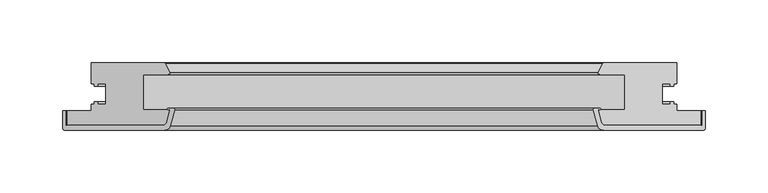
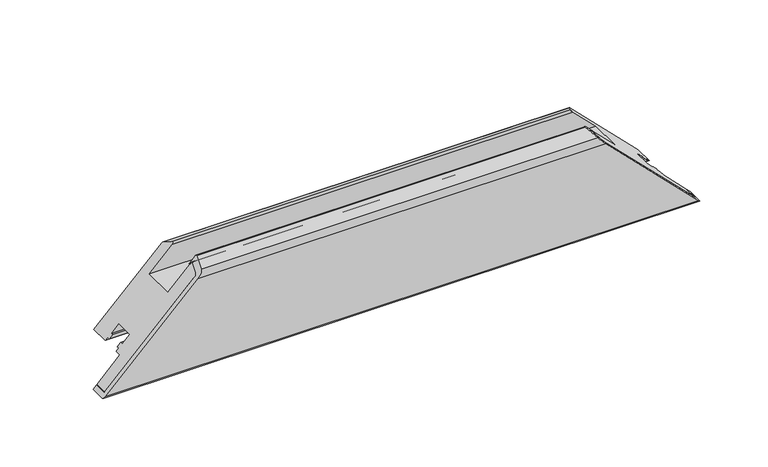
"""IFC4 building model written with IfcOpenShell, lengths in millimetres: proxy geometry, Weiku - Montante - Folha 02.2.01.018 : Weiku - Montante - Folha 02.2.01.018."""

import ifcopenshell
import ifcopenshell.guid

model = None  # the IFC model being written
_history = None  # IfcOwnerHistory: only IFC2X3 demands one
_inside = {}  # id of a spatial element -> (the spatial element, [elements in it])
_under = {}  # id of a project, library or spatial element -> (it, [spatial elements below it])
_declared = {}  # id of a project -> (the project, [libraries it declares])
_typed = {}  # id of a type object -> (the type object, [elements of that type])
_made_of = {}  # id of a material, layer set ... -> (it, [elements and type objects made of it])


def new_model(schema):
    """Start an empty IFC model of exactly this schema.

    Asked for "IFC4X3", IfcOpenShell would pick the latest addendum, in which some entities
    have other attributes; the version numbers below select the first issue.
    IFC2X3 requires an IfcOwnerHistory on every rooted entity: one is made here for all.
    """
    global model, _history
    if schema == "IFC4X3":
        model = ifcopenshell.file(schema_version=(4, 3, 0, 0))
    else:
        model = ifcopenshell.file(schema=schema)
    _inside.clear()
    _under.clear()
    _declared.clear()
    _typed.clear()
    _made_of.clear()
    _history = None
    if model.schema == "IFC2X3":
        org = make("IfcOrganization", Name="unknown")
        user = make(
            "IfcPersonAndOrganization",
            ThePerson=make("IfcPerson", FamilyName="unknown"),
            TheOrganization=org,
        )
        app = make(
            "IfcApplication",
            ApplicationDeveloper=org,
            Version="unknown",
            ApplicationFullName="unknown",
            ApplicationIdentifier="unknown",
        )
        _history = make(
            "IfcOwnerHistory",
            OwningUser=user,
            OwningApplication=app,
            ChangeAction="ADDED",
            CreationDate=0,
        )
    return model


def make(cls, **values):
    """One entity of the class cls with the attributes given. An attribute that is None is left unset."""
    return model.create_entity(
        cls, **{name: value for name, value in values.items() if value is not None}
    )


def rooted(cls, **values):
    """An entity with a GlobalId (a new one), such as an element, a storey or a relation."""
    return make(cls, GlobalId=ifcopenshell.guid.new(), OwnerHistory=_history, **values)


def si_unit(unit_type, name, prefix=None):
    """IfcSIUnit, for example si_unit("LENGTHUNIT", "METRE", prefix="MILLI")."""
    return make("IfcSIUnit", UnitType=unit_type, Prefix=prefix, Name=name)


def assignment(units):
    """IfcUnitAssignment: the units of a project."""
    return None if units is None else make("IfcUnitAssignment", Units=units)


def point(xyz):
    """IfcCartesianPoint."""
    return None if xyz is None else make("IfcCartesianPoint", Coordinates=xyz)


def direction(xyz):
    """IfcDirection."""
    return None if xyz is None else make("IfcDirection", DirectionRatios=xyz)


def frame(location, z_axis=None, x_axis=None):
    """IfcAxis2Placement3D, a coordinate frame: its origin and axes. An axis left out is left unset."""
    return make(
        "IfcAxis2Placement3D",
        Location=point(location),
        Axis=direction(z_axis),
        RefDirection=direction(x_axis),
    )


def origin():
    """The frame at (0, 0, 0) with its axes left unset."""
    return frame((0.0, 0.0, 0.0))


def place(relative_to, where):
    """IfcLocalPlacement: puts the frame where relative to a parent placement (None: the world)."""
    return make(
        "IfcLocalPlacement", PlacementRelTo=relative_to, RelativePlacement=where
    )


def context(
    kind, dimensions, precision=None, world=None, true_north=None, identifier=None
):
    """IfcGeometricRepresentationContext, for example the 3D "Model" context."""
    return make(
        "IfcGeometricRepresentationContext",
        ContextIdentifier=identifier,
        ContextType=kind,
        CoordinateSpaceDimension=dimensions,
        Precision=precision,
        WorldCoordinateSystem=world,
        TrueNorth=true_north,
    )


def project(units=None, contexts=None):
    """IfcProject with its units and contexts."""
    return rooted(
        "IfcProject",
        Name="project",
        RepresentationContexts=contexts,
        UnitsInContext=assignment(units),
    )


def spatial(cls, under=None, at=None, **own):
    """A site, building, storey or space (cls), placed at a placement, below another one or the project."""
    s = rooted(cls, ObjectPlacement=at, **own)
    if under is not None:
        _under.setdefault(under.id(), (under, []))[1].append(s)
    return s


def polyline(points):
    """IfcPolyline through the points."""
    return make("IfcPolyline", Points=[point(p) for p in points])


def ellipse_curve(where, semi_axis1, semi_axis2):
    """IfcEllipse in the frame where."""
    return make(
        "IfcEllipse", Position=where, SemiAxis1=semi_axis1, SemiAxis2=semi_axis2
    )


def shape(context_of_items, identifier, shape_type, items):
    """IfcShapeRepresentation: the items that make up one representation, for example the "Body"."""
    return make(
        "IfcShapeRepresentation",
        ContextOfItems=context_of_items,
        RepresentationIdentifier=identifier,
        RepresentationType=shape_type,
        Items=items,
    )


def source(mapping_origin, context_of_items, identifier, shape_type, items):
    """IfcRepresentationMap: a shape defined once, which mapped items show again and again."""
    return make(
        "IfcRepresentationMap",
        MappingOrigin=mapping_origin,
        MappedRepresentation=shape(context_of_items, identifier, shape_type, items),
    )


def transform(
    local_origin,
    x_axis=None,
    y_axis=None,
    z_axis=None,
    scale=None,
    scale2=None,
    scale3=None,
    uniform=True,
):
    """IfcCartesianTransformationOperator3D, or its non-uniform kind. x_axis, y_axis, z_axis: its Axis1, 2, 3."""
    if uniform:
        return make(
            "IfcCartesianTransformationOperator3D",
            Axis1=direction(x_axis),
            Axis2=direction(y_axis),
            LocalOrigin=point(local_origin),
            Scale=scale,
            Axis3=direction(z_axis),
        )
    return make(
        "IfcCartesianTransformationOperator3DnonUniform",
        Axis1=direction(x_axis),
        Axis2=direction(y_axis),
        LocalOrigin=point(local_origin),
        Scale=scale,
        Axis3=direction(z_axis),
        Scale2=scale2,
        Scale3=scale3,
    )


def mapped(mapping_source, mapping_target):
    """IfcMappedItem: shows the shape of a source again, moved by a transform."""
    return make(
        "IfcMappedItem", MappingSource=mapping_source, MappingTarget=mapping_target
    )


def made_of(thing, what):
    """Note that an element or type object is made of a material, layer set ...; save() writes the relation."""
    if what is not None:
        _made_of.setdefault(what.id(), (what, []))[1].append(thing)
    return thing


def element(
    cls,
    number,
    at=None,
    inside=None,
    cuts=None,
    type_object=None,
    material=None,
    context=None,
    identifier="Body",
    shape_type=None,
    held_by="IfcProductDefinitionShape",
    body=None,
    shapes=None,
    **own,
):
    """One element of the class cls, such as IfcWall. Its Tag is "e" and its number.

    at: its placement. inside: the storey or other place that contains it. cuts: it is an
    opening in that element (IfcRelVoidsElement). A single representation is given by context,
    identifier, shape_type and body (its items); several are given by shapes. held_by: the class
    of the entity that holds the representations. save() writes the other relations.
    """
    e = rooted(cls, Tag="e%d" % number, ObjectPlacement=at, **own)
    if body is not None:
        shapes = [shape(context, identifier, shape_type, body)]
    if shapes is not None:
        e.Representation = make(held_by, Representations=shapes)
    if inside is not None:
        _inside.setdefault(inside.id(), (inside, []))[1].append(e)
    if cuts is not None:
        rooted(
            "IfcRelVoidsElement", RelatingBuildingElement=cuts, RelatedOpeningElement=e
        )
    if type_object is not None:
        _typed.setdefault(type_object.id(), (type_object, []))[1].append(e)
    return made_of(e, material)


def aggregate(whole, parts):
    """IfcRelAggregates: a whole, such as a stair, and the parts it consists of."""
    return rooted("IfcRelAggregates", RelatingObject=whole, RelatedObjects=parts)


def save(model, path):
    """Write the relations noted so far, then the file.

    IfcRelAggregates (storeys below a building ...), IfcRelContainedInSpatialStructure (elements
    in a storey), IfcRelDefinesByType, IfcRelAssociatesMaterial and IfcRelDeclares: one each for
    every whole, place, type object, material and project.
    """
    for whole, parts in _under.values():
        aggregate(whole, parts)
    for where, things in _inside.values():
        rooted(
            "IfcRelContainedInSpatialStructure",
            RelatedElements=things,
            RelatingStructure=where,
        )
    for kind, things in _typed.values():
        rooted("IfcRelDefinesByType", RelatedObjects=things, RelatingType=kind)
    for what, things in _made_of.values():
        rooted("IfcRelAssociatesMaterial", RelatedObjects=things, RelatingMaterial=what)
    for by, libraries in _declared.values():
        rooted("IfcRelDeclares", RelatingContext=by, RelatedDefinitions=libraries)
    model.write(path)


def plane_surface(at):
    """IfcPlane: the flat surface through the origin of the frame at, square to its z axis."""
    return make("IfcPlane", Position=at)


def cylinder_surface(at, radius):
    """IfcCylindricalSurface: all points at the distance radius from the z axis of the frame at."""
    return make("IfcCylindricalSurface", Position=at, Radius=radius)


def revolved_surface(curve, axis_point, axis_direction):
    """IfcSurfaceOfRevolution: the curve turned about the line through axis_point along axis_direction."""
    return make(
        "IfcSurfaceOfRevolution",
        SweptCurve=make("IfcArbitraryOpenProfileDef", ProfileType="CURVE", Curve=curve),
        AxisPosition=make("IfcAxis1Placement", Location=point(axis_point), Axis=direction(axis_direction)),
    )


def advanced_brep(points, edges, surfaces, faces):
    """IfcAdvancedBrep: a solid bounded by faces that lie on surfaces and meet in shared edges.

    An edge is (start, end): straight between two places in points (the first is 0);
    or (start, end, curve); or (start, end, curve, False) where it runs against its curve.
    A face is (place in surfaces, loops), or (place, loops, False) where it looks against
    its surface's normal. A loop lists edges by number (the first is 1), with a minus sign
    where the edge is run from its end to its start. The first loop is the outer one.
    """
    corners = [point(p) for p in points]
    vertices = [make("IfcVertexPoint", VertexGeometry=c) for c in corners]
    made = []
    for start, end, *more in edges:
        made.append(
            make(
                "IfcEdgeCurve",
                EdgeStart=vertices[start],
                EdgeEnd=vertices[end],
                EdgeGeometry=more[0] if more else make("IfcPolyline", Points=[corners[start], corners[end]]),
                SameSense=more[1] if len(more) > 1 else True,
            )
        )
    hull = []
    for where, loops, *sense in faces:
        bounds = []
        for j, loop in enumerate(loops):
            ring = [make("IfcOrientedEdge", EdgeElement=made[abs(k) - 1], Orientation=k > 0) for k in loop]
            bounds.append(
                make(
                    "IfcFaceOuterBound" if j == 0 else "IfcFaceBound",
                    Bound=make("IfcEdgeLoop", EdgeList=ring),
                    Orientation=True,
                )
            )
        hull.append(make("IfcAdvancedFace", Bounds=bounds, FaceSurface=surfaces[where], SameSense=sense[0] if sense else True))
    return make("IfcAdvancedBrep", Outer=make("IfcClosedShell", CfsFaces=hull))


def generic_models_3558130d(model_context):
    return source(origin(), model_context, "Body", "AdvancedBrep", [
        advanced_brep(
        [(253.5, -50.0, 0.0), (-253.5, -50.0, 0.0), (-176.4997332, -50.0, 77.0002668), (176.4997332, -50.0, 77.0002668), (-173.6019557, -47.7764571, 79.8980443), (173.6019557, -47.7764571, 79.8980443), (-171.0170371, -38.1294095, 82.4829629), (171.0170371, -38.1294095, 82.4829629), (-171.5, -37.5, 82.0), (171.5, -37.5, 82.0), (-172.3560102, -37.5, 81.1439898), (172.3560102, -37.5, 81.1439898), (-172.3560102, -36.5, 81.1439898), (172.3560102, -36.5, 81.1439898), (-167.7425588, -36.5, 85.7574412), (167.7425588, -36.5, 85.7574412), (-166.7766329, -37.758819, 86.7233671), (166.7766329, -37.758819, 86.7233671), (-170.1354501, -50.2940952, 83.3645499), (170.1354501, -50.2940952, 83.3645499), (-174.9650792, -54.0, 78.5349208), (174.9650792, -54.0, 78.5349208), (-254.5, -54.0, -1.0), (254.5, -54.0, -1.0), (-256.5, -52.0, -3.0), (256.5, -52.0, -3.0), (-256.5, -38.5, -3.0), (256.5, -38.5, -3.0), (-253.5, -38.5, 0.0), (253.5, -38.5, 0.0)],
        [
            (0, 1),
            (1, 2),
            (2, 3),
            (3, 0),
            (2, 4, ellipse_curve(frame((-176.4997332, -47.0, 77.0002668), z_axis=(-0.707106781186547, 0.0, 0.7071067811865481), x_axis=(0.7071067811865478, 0.0, 0.707106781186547)), 4.2426407, 3.0)),
            (4, 5),
            (5, 3, ellipse_curve(frame((176.4997332, -47.0, 77.0002668), z_axis=(0.7071067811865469, 0.0, 0.7071067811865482), x_axis=(0.707106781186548, 0.0, -0.7071067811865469)), 4.2426407, 3.0)),
            (4, 6),
            (6, 7),
            (7, 5),
            (6, 8, ellipse_curve(frame((-171.5, -38.0, 82.0), z_axis=(-0.707106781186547, 0.0, 0.7071067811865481), x_axis=(0.7071067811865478, 0.0, 0.707106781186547)), 0.7071068, 0.5)),
            (8, 9),
            (9, 7, ellipse_curve(frame((171.5, -38.0, 82.0), z_axis=(0.7071067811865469, 0.0, 0.7071067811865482), x_axis=(0.707106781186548, 0.0, -0.7071067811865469)), 0.7071068, 0.5)),
            (8, 10),
            (10, 11),
            (11, 9),
            (10, 12, ellipse_curve(frame((-172.3560102, -37.0, 81.1439898), z_axis=(0.707106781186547, 0.0, -0.7071067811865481), x_axis=(-0.7071067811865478, 0.0, -0.707106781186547)), 0.7071068, 0.5)),
            (12, 13),
            (13, 11, ellipse_curve(frame((172.3560102, -37.0, 81.1439898), z_axis=(-0.7071067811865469, 0.0, -0.7071067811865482), x_axis=(-0.707106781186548, 0.0, 0.7071067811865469)), 0.7071068, 0.5)),
            (12, 14),
            (14, 15),
            (15, 13),
            (14, 16, ellipse_curve(frame((-167.7425588, -37.5, 85.7574412), z_axis=(0.707106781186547, 0.0, -0.7071067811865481), x_axis=(-0.7071067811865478, 0.0, -0.707106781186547)), 1.4142136, 1.0)),
            (16, 17),
            (17, 15, ellipse_curve(frame((167.7425588, -37.5, 85.7574412), z_axis=(-0.7071067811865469, 0.0, -0.7071067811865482), x_axis=(-0.707106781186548, 0.0, 0.7071067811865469)), 1.4142136, 1.0)),
            (16, 18),
            (18, 19),
            (19, 17),
            (18, 20, ellipse_curve(frame((-174.9650792, -49.0, 78.5349208), z_axis=(0.707106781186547, 0.0, -0.7071067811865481), x_axis=(-0.7071067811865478, 0.0, -0.707106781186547)), 7.0710678, 5.0)),
            (20, 21),
            (21, 19, ellipse_curve(frame((174.9650792, -49.0, 78.5349208), z_axis=(-0.7071067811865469, 0.0, -0.7071067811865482), x_axis=(-0.707106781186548, 0.0, 0.7071067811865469)), 7.0710678, 5.0)),
            (20, 22),
            (22, 23),
            (23, 21),
            (22, 24, ellipse_curve(frame((-254.5, -52.0, -1.0), z_axis=(0.707106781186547, 0.0, -0.7071067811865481), x_axis=(-0.7071067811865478, 0.0, -0.707106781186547)), 2.8284271, 2.0)),
            (24, 25),
            (25, 23, ellipse_curve(frame((254.5, -52.0, -1.0), z_axis=(-0.7071067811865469, 0.0, -0.7071067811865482), x_axis=(-0.707106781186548, 0.0, 0.7071067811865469)), 2.8284271, 2.0)),
            (24, 26),
            (26, 27),
            (27, 25),
            (26, 28),
            (28, 29),
            (29, 27),
            (28, 1),
            (0, 29),
        ],
        [
            plane_surface(frame((-273.5, -50.0, 0.0), z_axis=(0.0, 1.0, 0.0), x_axis=(1.0, 0.0, 0.0))),
            revolved_surface(polyline([(179.49973320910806, -50.0, 77.0002668), (-179.49973320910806, -50.0, 77.0002668)]), (-273.5, -47.0, 77.0002668), (1.0, 0.0, 0.0)),
            plane_surface(frame((-273.5, -47.7764571, 79.8980443), z_axis=(0.0, 0.2588190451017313, -0.9659258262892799), x_axis=(1.0, 0.0, 0.0))),
            revolved_surface(polyline([(172.00000001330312, -38.5, 82.0), (-172.00000001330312, -38.5, 82.0)]), (-273.5, -38.0, 82.0), (1.0, 0.0, 0.0)),
            plane_surface(frame((-273.5, -37.5, 82.0), z_axis=(0.0, -1.0, 0.0), x_axis=(1.0, 0.0, 0.0))),
            cylinder_surface(frame((-273.5, -37.0, 81.1439898), z_axis=(-1.0, 0.0, 0.0), x_axis=(0.0, -1.0, 0.0)), 0.5),
            plane_surface(frame((-273.5, -36.5, 81.1439898), z_axis=(0.0, 1.0, 0.0), x_axis=(1.0, 0.0, 0.0))),
            cylinder_surface(frame((-273.5, -37.5, 85.7574412), z_axis=(-1.0, 0.0, 0.0), x_axis=(0.0, -1.0, 0.0)), 1.0),
            plane_surface(frame((-273.5, -37.758819, 86.7233671), z_axis=(0.0, -0.25881904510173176, 0.9659258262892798), x_axis=(1.0, 0.0, 0.0))),
            cylinder_surface(frame((-273.5, -49.0, 78.5349208), z_axis=(-1.0, 0.0, 0.0), x_axis=(0.0, -1.0, 0.0)), 5.0),
            plane_surface(frame((-273.5, -54.0, 78.5349208), z_axis=(0.0, -1.0, 0.0), x_axis=(1.0, 0.0, 0.0))),
            cylinder_surface(frame((-273.5, -52.0, -1.0), z_axis=(-1.0, 0.0, 0.0), x_axis=(0.0, -1.0, 0.0)), 2.0),
            plane_surface(frame((-273.5, -52.0, -3.0), z_axis=(0.0, 0.0, -1.0), x_axis=(1.0, 0.0, 0.0))),
            plane_surface(frame((-273.5, -38.5, -3.0), z_axis=(0.0, 1.0, 0.0), x_axis=(1.0, 0.0, 0.0))),
            plane_surface(frame((-273.5, -38.5, 0.0), z_axis=(0.0, 0.0, 1.0), x_axis=(1.0, 0.0, 0.0))),
            plane_surface(frame((163.5, 0.0, 90.0), z_axis=(0.7071067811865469, 0.0, 0.7071067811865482), x_axis=(0.0, -1.0, 0.0))),
            plane_surface(frame((-281.7842712, 0.0, -28.2842712), z_axis=(-0.707106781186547, 0.0, 0.7071067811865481), x_axis=(0.0, -1.0, 0.0))),
        ],
        [
            (0, [[1, 2, 3, 4]]),
            (1, [[-3, 5, 6, 7]]),
            (2, [[-6, 8, 9, 10]]),
            (3, [[-9, 11, 12, 13]]),
            (4, [[-12, 14, 15, 16]]),
            (5, [[-15, 17, 18, 19]]),
            (6, [[-18, 20, 21, 22]]),
            (7, [[-21, 23, 24, 25]]),
            (8, [[-24, 26, 27, 28]]),
            (9, [[-27, 29, 30, 31]]),
            (10, [[-30, 32, 33, 34]]),
            (11, [[-33, 35, 36, 37]]),
            (12, [[-36, 38, 39, 40]]),
            (13, [[-39, 41, 42, 43]]),
            (14, [[-42, 44, -1, 45]]),
            (15, [[-7, -10, -13, -16, -19, -22, -25, -28, -31, -34, -37, -40, -43, -45, -4]]),
            (16, [[-44, -41, -38, -35, -32, -29, -26, -23, -20, -17, -14, -11, -8, -5, -2]]),
        ],
    ),
        advanced_brep(
        [(253.5, -50.0, 0.0), (176.4997332, -50.0, 77.0002668), (-176.4997332, -50.0, 77.0002668), (-253.5, -50.0, 0.0), (-253.5, -38.5, 0.0), (253.5, -38.5, 0.0), (-175.4872264, 0.0, 78.0127736), (175.4872264, 0.0, 78.0127736), (233.5, 0.0, 20.0), (-233.5, 0.0, 20.0), (-173.6019557, -47.7764571, 79.8980443), (-171.0170371, -38.1294095, 82.4829629), (-171.5, -37.5, 82.0), (-192.0, -37.5, 61.5), (-192.0, -9.5, 61.5), (-172.2134285, -9.5, 81.2865715), (-171.0512796, -7.617411, 82.4487204), (-174.5932657, -0.5518546, 78.9067343), (-233.5, -16.9, 20.0), (-231.3, -16.9, 22.2), (-231.3, -18.9, 22.2), (-228.5, -18.9, 25.0), (-228.5, -16.9, 25.0), (-222.0, -16.9, 31.5), (-222.0, -33.1, 31.5), (-228.5, -33.1, 25.0), (-228.5, -31.1, 25.0), (-231.3, -31.1, 22.2), (-231.3, -33.1, 22.2), (-233.5, -33.1, 20.0), (-233.5, -38.5, 20.0), (233.5, -38.5, 20.0), (233.5, -33.1, 20.0), (231.3, -33.1, 22.2), (231.3, -31.1, 22.2), (228.5, -31.1, 25.0), (228.5, -33.1, 25.0), (222.0, -33.1, 31.5), (222.0, -16.9, 31.5), (228.5, -16.9, 25.0), (228.5, -18.9, 25.0), (231.3, -18.9, 22.2), (231.3, -16.9, 22.2), (233.5, -16.9, 20.0), (174.5932657, -0.5518546, 78.9067343), (171.0512796, -7.617411, 82.4487204), (172.2134285, -9.5, 81.2865715), (192.0, -9.5, 61.5), (192.0, -37.5, 61.5), (171.5, -37.5, 82.0), (171.0170371, -38.1294095, 82.4829629), (173.6019557, -47.7764571, 79.8980443)],
        [
            (0, 1),
            (1, 2),
            (2, 3),
            (3, 0),
            (3, 4),
            (4, 5),
            (5, 0),
            (6, 7),
            (7, 8),
            (8, 9),
            (9, 6),
            (2, 10, ellipse_curve(frame((-176.4997332, -47.0, 77.0002668), z_axis=(-0.707106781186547, 0.0, 0.7071067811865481), x_axis=(-0.7071067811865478, 0.0, -0.707106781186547)), 4.2426407, 3.0)),
            (10, 11),
            (11, 12, ellipse_curve(frame((-171.5, -38.0, 82.0), z_axis=(-0.707106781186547, 0.0, 0.7071067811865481), x_axis=(-0.7071067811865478, 0.0, -0.707106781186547)), 0.7071068, 0.5)),
            (12, 13),
            (13, 14),
            (14, 15),
            (15, 16, ellipse_curve(frame((-172.2134285, -8.2, 81.2865715), z_axis=(-0.707106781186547, 0.0, 0.7071067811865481), x_axis=(-0.7071067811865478, 0.0, -0.707106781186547)), 1.8384776, 1.3)),
            (16, 17),
            (17, 6, ellipse_curve(frame((-175.4872264, -1.0, 78.0127736), z_axis=(-0.707106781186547, 0.0, 0.7071067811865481), x_axis=(-0.7071067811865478, 0.0, -0.707106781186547)), 1.4142136, 1.0)),
            (9, 18),
            (18, 19),
            (19, 20),
            (20, 21),
            (21, 22),
            (22, 23),
            (23, 24),
            (24, 25),
            (25, 26),
            (26, 27),
            (27, 28),
            (28, 29),
            (29, 30),
            (30, 4),
            (5, 31),
            (31, 32),
            (32, 33),
            (33, 34),
            (34, 35),
            (35, 36),
            (36, 37),
            (37, 38),
            (38, 39),
            (39, 40),
            (40, 41),
            (41, 42),
            (42, 43),
            (43, 8),
            (7, 44, ellipse_curve(frame((175.4872264, -1.0, 78.0127736), z_axis=(0.7071067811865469, 0.0, 0.7071067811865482), x_axis=(-0.707106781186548, 0.0, 0.7071067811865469)), 1.4142136, 1.0)),
            (44, 45),
            (45, 46, ellipse_curve(frame((172.2134285, -8.2, 81.2865715), z_axis=(0.7071067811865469, 0.0, 0.7071067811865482), x_axis=(-0.707106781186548, 0.0, 0.7071067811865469)), 1.8384776, 1.3)),
            (46, 47),
            (47, 48),
            (48, 49),
            (49, 50, ellipse_curve(frame((171.5, -38.0, 82.0), z_axis=(0.7071067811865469, 0.0, 0.7071067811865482), x_axis=(-0.707106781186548, 0.0, 0.7071067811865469)), 0.7071068, 0.5)),
            (50, 51),
            (51, 1, ellipse_curve(frame((176.4997332, -47.0, 77.0002668), z_axis=(0.7071067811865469, 0.0, 0.7071067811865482), x_axis=(-0.707106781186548, 0.0, 0.7071067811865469)), 4.2426407, 3.0)),
            (17, 44),
            (16, 45),
            (15, 46),
            (14, 47),
            (13, 48),
            (12, 49),
            (11, 50),
            (10, 51),
            (30, 31),
            (29, 32),
            (28, 33),
            (27, 34),
            (26, 35),
            (25, 36),
            (24, 37),
            (23, 38),
            (22, 39),
            (21, 40),
            (20, 41),
            (19, 42),
            (18, 43),
        ],
        [
            plane_surface(frame((-253.5, -50.0, 77.0002668), z_axis=(0.0, -1.0, 0.0), x_axis=(1.0, 0.0, 0.0))),
            plane_surface(frame((-253.5, -50.0, 0.0), z_axis=(0.0, 0.0, -1.0), x_axis=(1.0, 0.0, 0.0))),
            plane_surface(frame((-253.5, 0.0, 20.0), z_axis=(0.0, 1.0, 0.0), x_axis=(1.0, 0.0, 0.0))),
            plane_surface(frame((-281.7842712, 0.0, -28.2842712), z_axis=(-0.707106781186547, 0.0, 0.7071067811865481), x_axis=(0.0, -1.0, 0.0))),
            plane_surface(frame((163.5, 0.0, 90.0), z_axis=(0.7071067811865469, 0.0, 0.7071067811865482), x_axis=(0.0, -1.0, 0.0))),
            cylinder_surface(frame((-253.5, -1.0, 78.0127736), z_axis=(-1.0, 0.0, 0.0), x_axis=(0.0, -1.0, 0.0)), 1.0),
            plane_surface(frame((-253.5, -0.5518546, 78.9067343), z_axis=(0.0, 0.4481453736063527, 0.8939606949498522), x_axis=(1.0, 0.0, 0.0))),
            cylinder_surface(frame((-253.5, -8.2, 81.2865715), z_axis=(-1.0, 0.0, 0.0), x_axis=(0.0, -1.0, 0.0)), 1.3),
            plane_surface(frame((-253.5, -9.5, 81.2865715), z_axis=(0.0, -1.0, 0.0), x_axis=(1.0, 0.0, 0.0))),
            plane_surface(frame((-253.5, -9.5, 61.5), z_axis=(0.0, 0.0, 1.0), x_axis=(1.0, 0.0, 0.0))),
            plane_surface(frame((-253.5, -37.5, 61.5), z_axis=(0.0, 1.0, 0.0), x_axis=(1.0, 0.0, 0.0))),
            cylinder_surface(frame((-253.5, -38.0, 82.0), z_axis=(-1.0, 0.0, 0.0), x_axis=(0.0, -1.0, 0.0)), 0.5),
            plane_surface(frame((-253.5, -38.1294095, 82.4829629), z_axis=(0.0, -0.2588190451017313, 0.9659258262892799), x_axis=(1.0, 0.0, 0.0))),
            cylinder_surface(frame((-253.5, -47.0, 77.0002668), z_axis=(-1.0, 0.0, 0.0), x_axis=(0.0, -1.0, 0.0)), 3.0),
            plane_surface(frame((-253.5, -38.5, 0.0), z_axis=(0.0, 1.0, 0.0), x_axis=(1.0, 0.0, 0.0))),
            plane_surface(frame((-253.5, -38.5, 20.0), z_axis=(0.0, 0.0, -1.0), x_axis=(1.0, 0.0, 0.0))),
            plane_surface(frame((-253.5, -33.1, 20.0), z_axis=(0.0, 1.0, 0.0), x_axis=(1.0, 0.0, 0.0))),
            plane_surface(frame((-253.5, -33.1, 22.2), z_axis=(0.0, 0.0, -1.0), x_axis=(1.0, 0.0, 0.0))),
            plane_surface(frame((-253.5, -31.1, 22.2), z_axis=(0.0, 1.0, 0.0), x_axis=(1.0, 0.0, 0.0))),
            plane_surface(frame((-253.5, -31.1, 25.0), z_axis=(0.0, 0.0, 1.0), x_axis=(1.0, 0.0, 0.0))),
            plane_surface(frame((-253.5, -33.1, 25.0), z_axis=(0.0, 1.0, 0.0), x_axis=(1.0, 0.0, 0.0))),
            plane_surface(frame((-253.5, -33.1, 31.5), z_axis=(0.0, 0.0, -1.0), x_axis=(1.0, 0.0, 0.0))),
            plane_surface(frame((-253.5, -16.9, 31.5), z_axis=(0.0, -1.0, 0.0), x_axis=(1.0, 0.0, 0.0))),
            plane_surface(frame((-253.5, -16.9, 25.0), z_axis=(0.0, 0.0, 1.0), x_axis=(1.0, 0.0, 0.0))),
            plane_surface(frame((-253.5, -18.9, 25.0), z_axis=(0.0, -1.0, 0.0), x_axis=(1.0, 0.0, 0.0))),
            plane_surface(frame((-253.5, -18.9, 22.2), z_axis=(0.0, 0.0, -1.0), x_axis=(1.0, 0.0, 0.0))),
            plane_surface(frame((-253.5, -16.9, 22.2), z_axis=(0.0, -1.0, 0.0), x_axis=(1.0, 0.0, 0.0))),
            plane_surface(frame((-253.5, -16.9, 20.0), z_axis=(0.0, 0.0, -1.0), x_axis=(1.0, 0.0, 0.0))),
        ],
        [
            (0, [[1, 2, 3, 4]]),
            (1, [[5, 6, 7, -4]]),
            (2, [[8, 9, 10, 11]]),
            (3, [[12, 13, 14, 15, 16, 17, 18, 19, 20, -11, 21, 22, 23, 24, 25, 26, 27, 28, 29, 30, 31, 32, 33, 34, -5, -3]]),
            (4, [[-7, 35, 36, 37, 38, 39, 40, 41, 42, 43, 44, 45, 46, 47, 48, -9, 49, 50, 51, 52, 53, 54, 55, 56, 57, -1]]),
            (5, [[58, -49, -8, -20]]),
            (6, [[59, -50, -58, -19]]),
            (7, [[60, -51, -59, -18]]),
            (8, [[61, -52, -60, -17]]),
            (9, [[62, -53, -61, -16]]),
            (10, [[63, -54, -62, -15]]),
            (11, [[64, -55, -63, -14]]),
            (12, [[65, -56, -64, -13]]),
            (13, [[-2, -57, -65, -12]]),
            (14, [[-34, 66, -35, -6]]),
            (15, [[67, -36, -66, -33]]),
            (16, [[68, -37, -67, -32]]),
            (17, [[69, -38, -68, -31]]),
            (18, [[70, -39, -69, -30]]),
            (19, [[71, -40, -70, -29]]),
            (20, [[72, -41, -71, -28]]),
            (21, [[73, -42, -72, -27]]),
            (22, [[74, -43, -73, -26]]),
            (23, [[75, -44, -74, -25]]),
            (24, [[76, -45, -75, -24]]),
            (25, [[77, -46, -76, -23]]),
            (26, [[78, -47, -77, -22]]),
            (27, [[-10, -48, -78, -21]]),
        ],
    ),
    ])


if __name__ == "__main__":
    model = new_model("IFC4")
    model_context = context("Model", 3, world=origin())
    ifc_project = project(units=[si_unit("LENGTHUNIT", "METRE", prefix="MILLI")], contexts=[model_context])
    site = spatial("IfcSite", under=ifc_project)
    building = spatial("IfcBuilding", under=site)
    placement = place(None, origin())
    generic_models_shape = generic_models_3558130d(model_context)
    element("IfcBuildingElementProxy", 1, Name="Weiku - Montante - Folha 02.2.01.018 : Weiku - Montante - Folha 02.2.01.018", ObjectType="Weiku - Montante - Folha 02.2.01.018 : Weiku - Montante - Folha 02.2.01.018", at=placement, inside=building, context=model_context, shape_type="MappedRepresentation", body=[
        mapped(generic_models_shape, transform((0.0, 0.0, 0.0), x_axis=(1.0, 0.0, 0.0), y_axis=(0.0, 1.0, 0.0), z_axis=(0.0, 0.0, 1.0))),
    ])
    save(model, "model.ifc")
